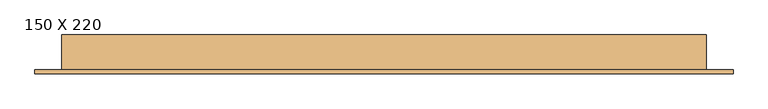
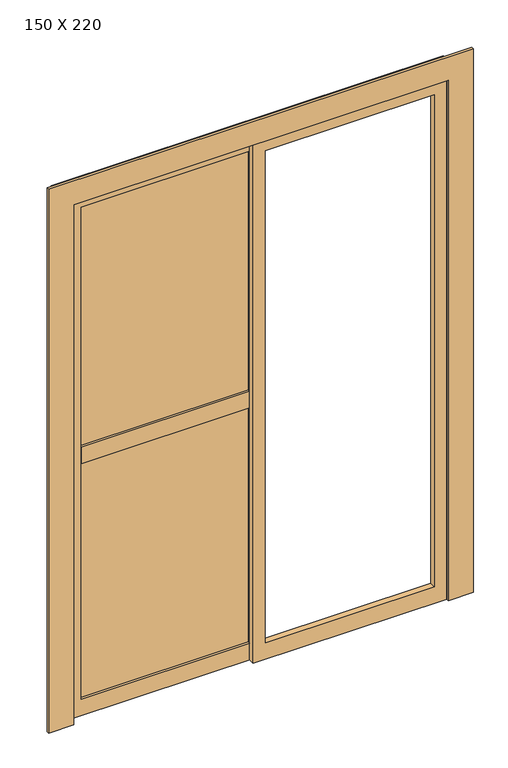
"""IFC4 building model written with IfcOpenShell, lengths in millimetres: door geometry, PORTA DE VIDRO COM ESQUADRIA DE CORRER - 2 FOLHAS + VENEZIANA SANFONADA - 4 FOLHAS : 150 X 220."""

import ifcopenshell
import ifcopenshell.guid

model = None  # the IFC model being written
_history = None  # IfcOwnerHistory: only IFC2X3 demands one
_inside = {}  # id of a spatial element -> (the spatial element, [elements in it])
_under = {}  # id of a project, library or spatial element -> (it, [spatial elements below it])
_declared = {}  # id of a project -> (the project, [libraries it declares])
_typed = {}  # id of a type object -> (the type object, [elements of that type])
_made_of = {}  # id of a material, layer set ... -> (it, [elements and type objects made of it])


def new_model(schema):
    """Start an empty IFC model of exactly this schema.

    Asked for "IFC4X3", IfcOpenShell would pick the latest addendum, in which some entities
    have other attributes; the version numbers below select the first issue.
    IFC2X3 requires an IfcOwnerHistory on every rooted entity: one is made here for all.
    """
    global model, _history
    if schema == "IFC4X3":
        model = ifcopenshell.file(schema_version=(4, 3, 0, 0))
    else:
        model = ifcopenshell.file(schema=schema)
    _inside.clear()
    _under.clear()
    _declared.clear()
    _typed.clear()
    _made_of.clear()
    _history = None
    if model.schema == "IFC2X3":
        org = make("IfcOrganization", Name="unknown")
        user = make(
            "IfcPersonAndOrganization",
            ThePerson=make("IfcPerson", FamilyName="unknown"),
            TheOrganization=org,
        )
        app = make(
            "IfcApplication",
            ApplicationDeveloper=org,
            Version="unknown",
            ApplicationFullName="unknown",
            ApplicationIdentifier="unknown",
        )
        _history = make(
            "IfcOwnerHistory",
            OwningUser=user,
            OwningApplication=app,
            ChangeAction="ADDED",
            CreationDate=0,
        )
    return model


def make(cls, **values):
    """One entity of the class cls with the attributes given. An attribute that is None is left unset."""
    return model.create_entity(
        cls, **{name: value for name, value in values.items() if value is not None}
    )


def rooted(cls, **values):
    """An entity with a GlobalId (a new one), such as an element, a storey or a relation."""
    return make(cls, GlobalId=ifcopenshell.guid.new(), OwnerHistory=_history, **values)


def si_unit(unit_type, name, prefix=None):
    """IfcSIUnit, for example si_unit("LENGTHUNIT", "METRE", prefix="MILLI")."""
    return make("IfcSIUnit", UnitType=unit_type, Prefix=prefix, Name=name)


def assignment(units):
    """IfcUnitAssignment: the units of a project."""
    return None if units is None else make("IfcUnitAssignment", Units=units)


def point(xyz):
    """IfcCartesianPoint."""
    return None if xyz is None else make("IfcCartesianPoint", Coordinates=xyz)


def direction(xyz):
    """IfcDirection."""
    return None if xyz is None else make("IfcDirection", DirectionRatios=xyz)


def frame(location, z_axis=None, x_axis=None):
    """IfcAxis2Placement3D, a coordinate frame: its origin and axes. An axis left out is left unset."""
    return make(
        "IfcAxis2Placement3D",
        Location=point(location),
        Axis=direction(z_axis),
        RefDirection=direction(x_axis),
    )


def origin():
    """The frame at (0, 0, 0) with its axes left unset."""
    return frame((0.0, 0.0, 0.0))


def place(relative_to, where):
    """IfcLocalPlacement: puts the frame where relative to a parent placement (None: the world)."""
    return make(
        "IfcLocalPlacement", PlacementRelTo=relative_to, RelativePlacement=where
    )


def context(
    kind, dimensions, precision=None, world=None, true_north=None, identifier=None
):
    """IfcGeometricRepresentationContext, for example the 3D "Model" context."""
    return make(
        "IfcGeometricRepresentationContext",
        ContextIdentifier=identifier,
        ContextType=kind,
        CoordinateSpaceDimension=dimensions,
        Precision=precision,
        WorldCoordinateSystem=world,
        TrueNorth=true_north,
    )


def project(units=None, contexts=None):
    """IfcProject with its units and contexts."""
    return rooted(
        "IfcProject",
        Name="project",
        RepresentationContexts=contexts,
        UnitsInContext=assignment(units),
    )


def spatial(cls, under=None, at=None, **own):
    """A site, building, storey or space (cls), placed at a placement, below another one or the project."""
    s = rooted(cls, ObjectPlacement=at, **own)
    if under is not None:
        _under.setdefault(under.id(), (under, []))[1].append(s)
    return s


def polyline(points):
    """IfcPolyline through the points."""
    return make("IfcPolyline", Points=[point(p) for p in points])


def outline(outer, holes=None, kind="AREA"):
    """IfcArbitraryClosedProfileDef: a profile drawn as a closed curve; with holes, ...WithVoids."""
    if holes is None:
        return make("IfcArbitraryClosedProfileDef", ProfileType=kind, OuterCurve=outer)
    return make(
        "IfcArbitraryProfileDefWithVoids",
        ProfileType=kind,
        OuterCurve=outer,
        InnerCurves=holes,
    )


def extrude(swept, where, along, depth):
    """IfcExtrudedAreaSolid: the profile swept, set in the frame where, extruded along a direction by depth."""
    return make(
        "IfcExtrudedAreaSolid",
        SweptArea=swept,
        Position=where,
        ExtrudedDirection=direction(along),
        Depth=depth,
    )


def shape(context_of_items, identifier, shape_type, items):
    """IfcShapeRepresentation: the items that make up one representation, for example the "Body"."""
    return make(
        "IfcShapeRepresentation",
        ContextOfItems=context_of_items,
        RepresentationIdentifier=identifier,
        RepresentationType=shape_type,
        Items=items,
    )


def source(mapping_origin, context_of_items, identifier, shape_type, items):
    """IfcRepresentationMap: a shape defined once, which mapped items show again and again."""
    return make(
        "IfcRepresentationMap",
        MappingOrigin=mapping_origin,
        MappedRepresentation=shape(context_of_items, identifier, shape_type, items),
    )


def transform(
    local_origin,
    x_axis=None,
    y_axis=None,
    z_axis=None,
    scale=None,
    scale2=None,
    scale3=None,
    uniform=True,
):
    """IfcCartesianTransformationOperator3D, or its non-uniform kind. x_axis, y_axis, z_axis: its Axis1, 2, 3."""
    if uniform:
        return make(
            "IfcCartesianTransformationOperator3D",
            Axis1=direction(x_axis),
            Axis2=direction(y_axis),
            LocalOrigin=point(local_origin),
            Scale=scale,
            Axis3=direction(z_axis),
        )
    return make(
        "IfcCartesianTransformationOperator3DnonUniform",
        Axis1=direction(x_axis),
        Axis2=direction(y_axis),
        LocalOrigin=point(local_origin),
        Scale=scale,
        Axis3=direction(z_axis),
        Scale2=scale2,
        Scale3=scale3,
    )


def mapped(mapping_source, mapping_target):
    """IfcMappedItem: shows the shape of a source again, moved by a transform."""
    return make(
        "IfcMappedItem", MappingSource=mapping_source, MappingTarget=mapping_target
    )


def made_of(thing, what):
    """Note that an element or type object is made of a material, layer set ...; save() writes the relation."""
    if what is not None:
        _made_of.setdefault(what.id(), (what, []))[1].append(thing)
    return thing


def element(
    cls,
    number,
    at=None,
    inside=None,
    cuts=None,
    type_object=None,
    material=None,
    context=None,
    identifier="Body",
    shape_type=None,
    held_by="IfcProductDefinitionShape",
    body=None,
    shapes=None,
    **own,
):
    """One element of the class cls, such as IfcWall. Its Tag is "e" and its number.

    at: its placement. inside: the storey or other place that contains it. cuts: it is an
    opening in that element (IfcRelVoidsElement). A single representation is given by context,
    identifier, shape_type and body (its items); several are given by shapes. held_by: the class
    of the entity that holds the representations. save() writes the other relations.
    """
    e = rooted(cls, Tag="e%d" % number, ObjectPlacement=at, **own)
    if body is not None:
        shapes = [shape(context, identifier, shape_type, body)]
    if shapes is not None:
        e.Representation = make(held_by, Representations=shapes)
    if inside is not None:
        _inside.setdefault(inside.id(), (inside, []))[1].append(e)
    if cuts is not None:
        rooted(
            "IfcRelVoidsElement", RelatingBuildingElement=cuts, RelatedOpeningElement=e
        )
    if type_object is not None:
        _typed.setdefault(type_object.id(), (type_object, []))[1].append(e)
    return made_of(e, material)


def aggregate(whole, parts):
    """IfcRelAggregates: a whole, such as a stair, and the parts it consists of."""
    return rooted("IfcRelAggregates", RelatingObject=whole, RelatedObjects=parts)


def save(model, path):
    """Write the relations noted so far, then the file.

    IfcRelAggregates (storeys below a building ...), IfcRelContainedInSpatialStructure (elements
    in a storey), IfcRelDefinesByType, IfcRelAssociatesMaterial and IfcRelDeclares: one each for
    every whole, place, type object, material and project.
    """
    for whole, parts in _under.values():
        aggregate(whole, parts)
    for where, things in _inside.values():
        rooted(
            "IfcRelContainedInSpatialStructure",
            RelatedElements=things,
            RelatingStructure=where,
        )
    for kind, things in _typed.values():
        rooted("IfcRelDefinesByType", RelatedObjects=things, RelatingType=kind)
    for what, things in _made_of.values():
        rooted("IfcRelAssociatesMaterial", RelatedObjects=things, RelatingMaterial=what)
    for by, libraries in _declared.values():
        rooted("IfcRelDeclares", RelatingContext=by, RelatedDefinitions=libraries)
    model.write(path)


def door_150_x_220_2da67abe(model_context):
    return source(origin(), model_context, "Body", "SweptSolid", [
        extrude(outline(polyline([(2200.0, 762.1837644), (2200.0, -12.8162356), (0.0, -12.8162356), (0.0, 762.1837644), (2200.0, 762.1837644)]), holes=[polyline([(2150.0, 712.1837644), (70.0, 712.1837644), (70.0, 37.1837644), (2150.0, 37.1837644), (2150.0, 712.1837644)])]), frame((0.0, -74.8421353, 0.0), z_axis=(0.0, 1.0, 0.0), x_axis=(0.0, 0.0, 1.0)), (0.0, 0.0, 1.0), 25.0),
        extrude(outline(polyline([(-12.8162356, -49.8421353), (-687.8162356, -49.8421353), (-687.8162356, -24.8421353), (-12.8162356, -24.8421353), (-12.8162356, -49.8421353)])), frame((0.0, 0.0, 1065.0), z_axis=(0.0, 0.0, 1.0), x_axis=(1.0, 0.0, 0.0)), (0.0, 0.0, 1.0), 70.0),
        extrude(outline(polyline([(-687.8162356, -40.3421353), (-687.8162356, -34.3421353), (-12.8162356, -34.3421353), (-12.8162356, -40.3421353), (-687.8162356, -40.3421353)])), frame((0.0, 0.0, 70.0), z_axis=(0.0, 0.0, 1.0), x_axis=(1.0, 0.0, 0.0)), (0.0, 0.0, 1.0), 2080.0),
        extrude(outline(polyline([(2200.0, -737.8162356), (0.0, -737.8162356), (0.0, 37.1837644), (2200.0, 37.1837644), (2200.0, -737.8162356)]), holes=[polyline([(2150.0, -687.8162356), (2150.0, -12.8162356), (70.0, -12.8162356), (70.0, -687.8162356), (2150.0, -687.8162356)])]), frame((0.0, -49.8421353, 0.0), z_axis=(0.0, 1.0, 0.0), x_axis=(0.0, 0.0, 1.0)), (0.0, 0.0, 1.0), 25.0),
        extrude(outline(polyline([(2235.0, -772.8162356), (0.0, -772.8162356), (0.0, -737.8162356), (2200.0, -737.8162356), (2200.0, 762.1837644), (0.0, 762.1837644), (0.0, 797.1837644), (2235.0, 797.1837644), (2235.0, -772.8162356)])), frame((0.0, -74.8421353, 0.0), z_axis=(0.0, 1.0, 0.0), x_axis=(0.0, 0.0, 1.0)), (0.0, 0.0, 1.0), 85.0),
        extrude(outline(polyline([(2200.0, -737.8162356), (2200.0, 762.1837644), (0.0, 762.1837644), (0.0, 862.1837644), (2300.0, 862.1837644), (2300.0, -837.8162356), (0.0, -837.8162356), (0.0, -737.8162356), (2200.0, -737.8162356)])), frame((0.0, -84.8421353, 0.0), z_axis=(0.0, 1.0, 0.0), x_axis=(0.0, 0.0, 1.0)), (0.0, 0.0, 1.0), 10.0),
    ])


if __name__ == "__main__":
    model = new_model("IFC4")
    model_context = context("Model", 3, world=origin())
    ifc_project = project(units=[si_unit("LENGTHUNIT", "METRE", prefix="MILLI")], contexts=[model_context])
    site = spatial("IfcSite", under=ifc_project)
    building = spatial("IfcBuilding", under=site)
    placement = place(None, origin())
    door_150_x_220_shape = door_150_x_220_2da67abe(model_context)
    element("IfcDoor", 1, ObjectType="PORTA DE VIDRO COM ESQUADRIA DE CORRER - 2 FOLHAS + VENEZIANA SANFONADA - 4 FOLHAS : 150 X 220", at=placement, inside=building, context=model_context, shape_type="MappedRepresentation", body=[
        mapped(door_150_x_220_shape, transform((0.0, 0.0, 0.0), x_axis=(1.0, 0.0, 0.0), y_axis=(0.0, 1.0, 0.0), z_axis=(0.0, 0.0, 1.0))),
    ])
    save(model, "model.ifc")
